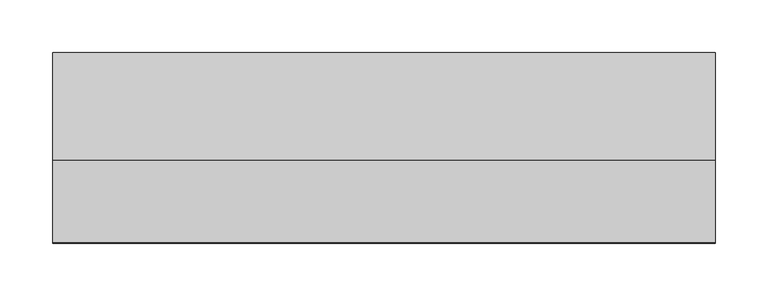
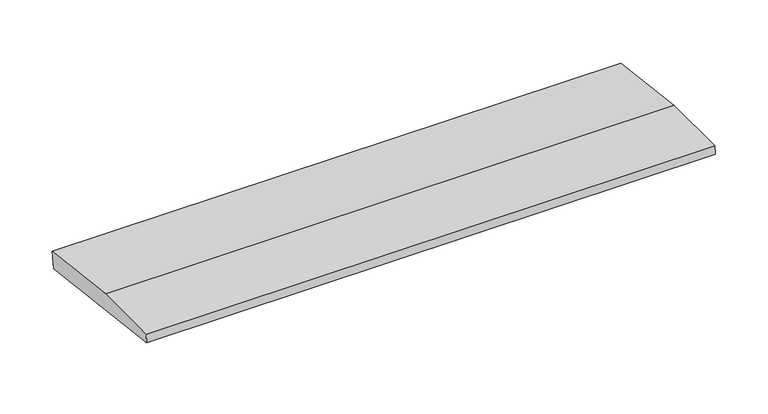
"""IFC4 building model written with IfcOpenShell, lengths in millimetres: beam geometry, weatherboad : weatherboad."""

from ifc_helpers import new_model, si_unit, frame, origin, place, context, project, spatial, polyline, outline, extrude, source, transform, mapped, element, save


def beam_29e33842(model_context):
    return source(origin(), model_context, "Body", "SweptSolid", [
        extrude(outline(polyline([(0.0, -9.143159), (1.1226388, 0.0), (79.0749747, 0.0), (180.9387048, -12.5072934), (178.6231873, -31.3656703), (0.0, -9.143159)])), frame((-313.9035337, 0.0, 0.0), z_axis=(1.0, 0.0, 0.0), x_axis=(0.0, 1.0, 0.0)), (0.0, 0.0, 1.0), 627.8070675),
    ])


if __name__ == "__main__":
    model = new_model("IFC4")
    model_context = context("Model", 3, world=origin())
    ifc_project = project(units=[si_unit("LENGTHUNIT", "METRE", prefix="MILLI")], contexts=[model_context])
    site = spatial("IfcSite", under=ifc_project)
    building = spatial("IfcBuilding", under=site)
    placement = place(None, origin())
    beam_shape = beam_29e33842(model_context)
    element("IfcBeam", 1, ObjectType="weatherboad : weatherboad", at=placement, inside=building, context=model_context, shape_type="MappedRepresentation", body=[
        mapped(beam_shape, transform((0.0, 0.0, 0.0), x_axis=(1.0, 0.0, 0.0), y_axis=(0.0, 1.0, 0.0), z_axis=(0.0, 0.0, 1.0))),
    ])
    save(model, "model.ifc")
